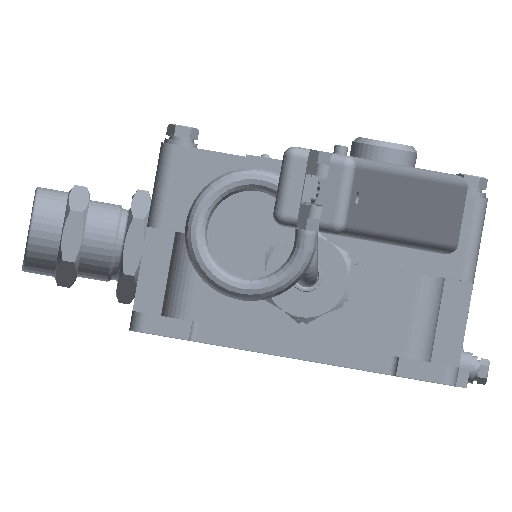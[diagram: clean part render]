
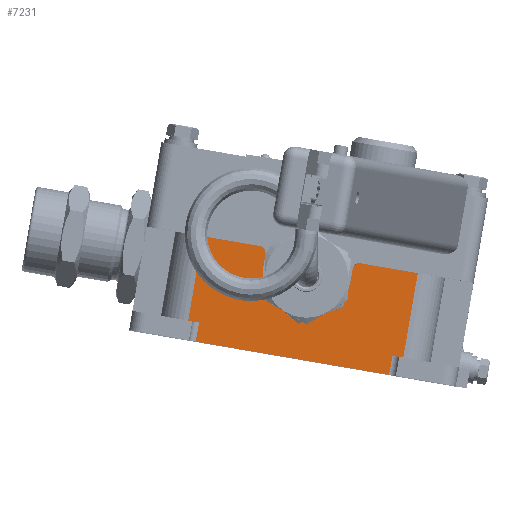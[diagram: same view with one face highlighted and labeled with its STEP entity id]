
A CAD part, top view. The second image highlights one B-rep face of the part: STEP entity #7231.
In plain terms, the highlighted planar face has unit normal (0, 0, 1) as drawn and (1, 0, 0) by its records, which use the part's own axes.
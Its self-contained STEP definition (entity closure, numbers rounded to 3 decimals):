
#7231=ADVANCED_FACE('',(#33003),#33005,.T.);
#33003=FACE_BOUND('',#33004,.T.);
#33004=EDGE_LOOP('',(#136577,#136578,#136579,#136580,#136581,#136582,#136583,#136584,
#136585,#136586,#136587,#136588,#136589,#136590));
#33005=PLANE('',#33006);
#33006=AXIS2_PLACEMENT_3D('',#33007,#33008,#33009);
#33007=CARTESIAN_POINT('',(49.5,-39.5,7.));
#33008=DIRECTION('',(1.,0.,0.));
#33009=DIRECTION('',(0.,1.,0.));
#136577=ORIENTED_EDGE('',*,*,#219075,.F.);
#136578=ORIENTED_EDGE('',*,*,#219118,.F.);
#136579=ORIENTED_EDGE('',*,*,#219116,.F.);
#136580=ORIENTED_EDGE('',*,*,#219114,.F.);
#136581=ORIENTED_EDGE('',*,*,#219112,.F.);
#136582=ORIENTED_EDGE('',*,*,#219110,.F.);
#136583=ORIENTED_EDGE('',*,*,#219120,.F.);
#136584=ORIENTED_EDGE('',*,*,#219121,.T.);
#136585=ORIENTED_EDGE('',*,*,#219122,.T.);
#136586=ORIENTED_EDGE('',*,*,#219123,.F.);
#136587=ORIENTED_EDGE('',*,*,#219124,.F.);
#136588=ORIENTED_EDGE('',*,*,#219125,.T.);
#136589=ORIENTED_EDGE('',*,*,#219126,.T.);
#136590=ORIENTED_EDGE('',*,*,#219076,.F.);
#219075=EDGE_CURVE('',#260749,#260747,#260751,.T.);
#219076=EDGE_CURVE('',#260747,#260752,#260753,.F.);
#219110=EDGE_CURVE('',#260814,#260806,#260816,.F.);
#219112=EDGE_CURVE('',#260806,#260819,#260820,.T.);
#219114=EDGE_CURVE('',#260819,#260822,#260823,.T.);
#219116=EDGE_CURVE('',#260822,#260825,#260826,.T.);
#219118=EDGE_CURVE('',#260825,#260749,#260828,.T.);
#219120=EDGE_CURVE('',#260831,#260814,#260832,.T.);
#219121=EDGE_CURVE('',#260831,#260833,#260834,.T.);
#219122=EDGE_CURVE('',#260833,#260835,#260836,.T.);
#219123=EDGE_CURVE('',#260837,#260835,#260838,.T.);
#219124=EDGE_CURVE('',#260839,#260837,#260840,.T.);
#219125=EDGE_CURVE('',#260839,#260841,#260842,.T.);
#219126=EDGE_CURVE('',#260841,#260752,#260843,.T.);
#260747=VERTEX_POINT('',#332060);
#260749=VERTEX_POINT('',#332064);
#260751=CIRCLE('',#332068,2.5);
#260752=VERTEX_POINT('',#332072);
#260753=LINE('',#332073,#332074);
#260806=VERTEX_POINT('',#332200);
#260814=VERTEX_POINT('',#332216);
#260816=LINE('',#332221,#332222);
#260819=VERTEX_POINT('',#332229);
#260820=CIRCLE('',#332230,2.5);
#260822=VERTEX_POINT('',#332237);
#260823=LINE('',#332238,#332239);
#260825=VERTEX_POINT('',#332244);
#260826=CIRCLE('',#332245,16.);
#260828=LINE('',#332252,#332253);
#260831=VERTEX_POINT('',#332260);
#260832=LINE('',#332261,#332262);
#260833=VERTEX_POINT('',#332264);
#260834=LINE('',#332265,#332266);
#260835=VERTEX_POINT('',#332268);
#260836=LINE('',#332269,#332270);
#260837=VERTEX_POINT('',#332272);
#260838=LINE('',#332273,#332274);
#260839=VERTEX_POINT('',#332276);
#260840=LINE('',#332277,#332278);
#260841=VERTEX_POINT('',#332280);
#260842=LINE('',#332281,#332282);
#260843=LINE('',#332284,#332285);
#332060=CARTESIAN_POINT('',(49.5,18.5,38.));
#332064=CARTESIAN_POINT('',(49.5,16.,35.5));
#332068=AXIS2_PLACEMENT_3D('',#332069,#332070,#332071);
#332069=CARTESIAN_POINT('',(49.5,18.5,35.5));
#332070=DIRECTION('',(-1.,0.,0.));
#332071=DIRECTION('',(0.,-1.,0.));
#332072=CARTESIAN_POINT('',(49.5,39.5,38.));
#332073=CARTESIAN_POINT('',(49.5,39.5,38.));
#332074=VECTOR('',#332075,1.);
#332075=DIRECTION('',(0.,-1.,0.));
#332200=CARTESIAN_POINT('',(49.5,-18.5,38.));
#332216=CARTESIAN_POINT('',(49.5,-39.5,38.));
#332221=CARTESIAN_POINT('',(49.5,-18.5,38.));
#332222=VECTOR('',#332223,1.);
#332223=DIRECTION('',(0.,-1.,0.));
#332229=CARTESIAN_POINT('',(49.5,-16.,35.5));
#332230=AXIS2_PLACEMENT_3D('',#332231,#332232,#332233);
#332231=CARTESIAN_POINT('',(49.5,-18.5,35.5));
#332232=DIRECTION('',(-1.,0.,0.));
#332233=DIRECTION('',(0.,0.,1.));
#332237=CARTESIAN_POINT('',(49.5,-16.,31.));
#332238=CARTESIAN_POINT('',(49.5,-16.,35.5));
#332239=VECTOR('',#332240,1.);
#332240=DIRECTION('',(0.,0.,-1.));
#332244=CARTESIAN_POINT('',(49.5,16.,31.));
#332245=AXIS2_PLACEMENT_3D('',#332246,#332247,#332248);
#332246=CARTESIAN_POINT('',(49.5,0.,31.));
#332247=DIRECTION('',(1.,0.,0.));
#332248=DIRECTION('',(0.,-1.,0.));
#332252=CARTESIAN_POINT('',(49.5,16.,31.));
#332253=VECTOR('',#332254,1.);
#332254=DIRECTION('',(0.,0.,1.));
#332260=CARTESIAN_POINT('',(49.5,-39.5,7.));
#332261=CARTESIAN_POINT('',(49.5,-39.5,7.));
#332262=VECTOR('',#332263,1.);
#332263=DIRECTION('',(0.,0.,1.));
#332264=CARTESIAN_POINT('',(49.5,-35.5,7.));
#332265=CARTESIAN_POINT('',(49.5,-39.5,7.));
#332266=VECTOR('',#332267,1.);
#332267=DIRECTION('',(0.,1.,0.));
#332268=CARTESIAN_POINT('',(49.5,-35.5,0.));
#332269=CARTESIAN_POINT('',(49.5,-35.5,7.));
#332270=VECTOR('',#332271,1.);
#332271=DIRECTION('',(0.,0.,-1.));
#332272=CARTESIAN_POINT('',(49.5,35.5,0.));
#332273=CARTESIAN_POINT('',(49.5,35.5,0.));
#332274=VECTOR('',#332275,1.);
#332275=DIRECTION('',(0.,-1.,0.));
#332276=CARTESIAN_POINT('',(49.5,35.5,7.));
#332277=CARTESIAN_POINT('',(49.5,35.5,7.));
#332278=VECTOR('',#332279,1.);
#332279=DIRECTION('',(0.,0.,-1.));
#332280=CARTESIAN_POINT('',(49.5,39.5,7.));
#332281=CARTESIAN_POINT('',(49.5,35.5,7.));
#332282=VECTOR('',#332283,1.);
#332283=DIRECTION('',(0.,1.,0.));
#332284=CARTESIAN_POINT('',(49.5,39.5,7.));
#332285=VECTOR('',#332286,1.);
#332286=DIRECTION('',(0.,0.,1.));
